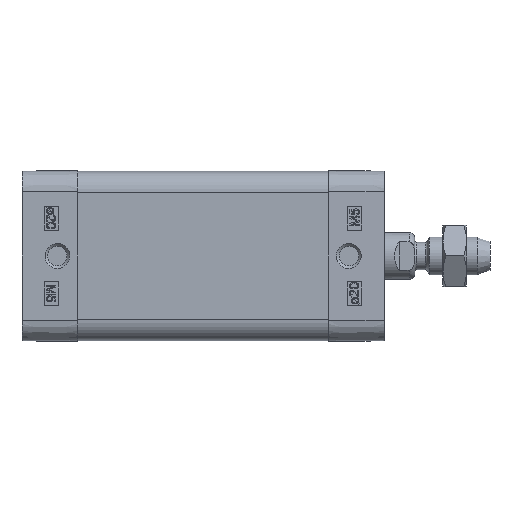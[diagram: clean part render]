
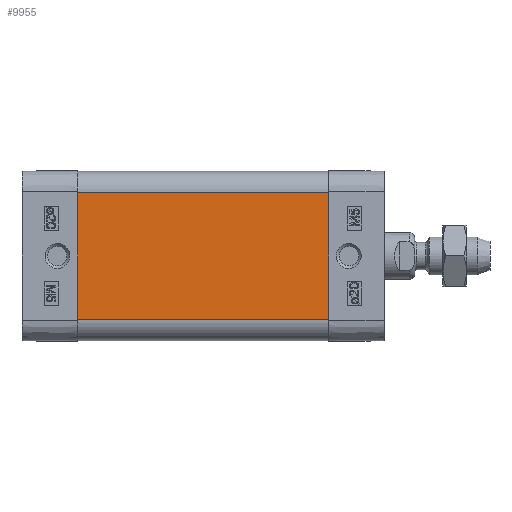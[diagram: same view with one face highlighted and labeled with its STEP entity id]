
A CAD part, left-side view. The second image highlights one B-rep face of the part: STEP entity #9955.
In plain terms, the highlighted planar face has unit normal (-1, 0, 0).
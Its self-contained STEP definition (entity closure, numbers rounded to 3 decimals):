
#957=LINE('',#17835,#1803);
#985=LINE('',#17948,#1831);
#1067=LINE('',#18168,#1913);
#1068=LINE('',#18170,#1914);
#1803=VECTOR('',#15115,1000.);
#1831=VECTOR('',#15201,1000.);
#1913=VECTOR('',#15447,1000.);
#1914=VECTOR('',#15450,1000.);
#3016=ORIENTED_EDGE('',*,*,#5612,.T.);
#3017=ORIENTED_EDGE('',*,*,#5778,.T.);
#3018=ORIENTED_EDGE('',*,*,#5779,.T.);
#3019=ORIENTED_EDGE('',*,*,#5668,.F.);
#5612=EDGE_CURVE('',#7053,#7054,#957,.T.);
#5668=EDGE_CURVE('',#7053,#7109,#985,.T.);
#5778=EDGE_CURVE('',#7054,#7164,#1067,.T.);
#5779=EDGE_CURVE('',#7164,#7109,#1068,.T.);
#7053=VERTEX_POINT('',#17836);
#7054=VERTEX_POINT('',#17837);
#7109=VERTEX_POINT('',#17949);
#7164=VERTEX_POINT('',#18167);
#8142=EDGE_LOOP('',(#3016,#3017,#3018,#3019));
#8908=FACE_BOUND('',#8142,.T.);
#9621=PLANE('',#14265);
#9955=ADVANCED_FACE('',(#8908),#9621,.T.);
#14265=AXIS2_PLACEMENT_3D('',#18169,#15448,#15449);
#15115=DIRECTION('',(0.,0.,-1.));
#15201=DIRECTION('',(0.,-1.,0.));
#15447=DIRECTION('',(0.,-1.,0.));
#15448=DIRECTION('',(-1.,0.,0.));
#15449=DIRECTION('',(0.,0.,1.));
#15450=DIRECTION('',(0.,0.,1.));
#17835=CARTESIAN_POINT('',(-18.,9.25,13.5));
#17836=CARTESIAN_POINT('',(-18.,9.25,13.5));
#17837=CARTESIAN_POINT('',(-18.,9.25,-13.5));
#17948=CARTESIAN_POINT('',(-18.,0.,13.5));
#17949=CARTESIAN_POINT('',(-18.,-44.15,13.5));
#18167=CARTESIAN_POINT('',(-18.,-44.15,-13.5));
#18168=CARTESIAN_POINT('',(-18.,0.,-13.5));
#18169=CARTESIAN_POINT('',(-18.,0.,13.5));
#18170=CARTESIAN_POINT('',(-18.,-44.15,13.5));
